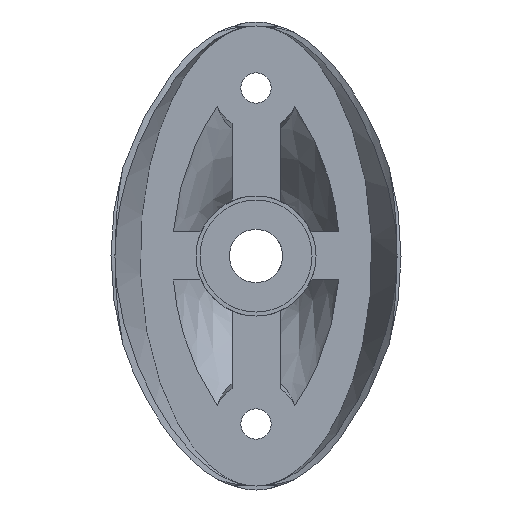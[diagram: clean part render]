
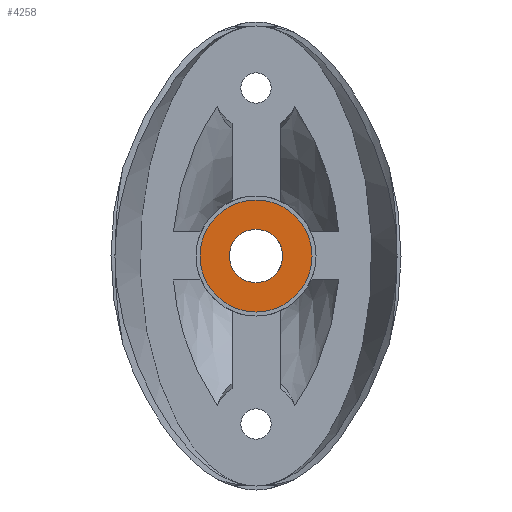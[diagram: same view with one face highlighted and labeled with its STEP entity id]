
A CAD part, front view. The second image highlights one B-rep face of the part: STEP entity #4258.
In plain terms, the highlighted planar face has unit normal (0, -1, 0).
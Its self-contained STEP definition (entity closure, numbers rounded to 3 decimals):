
#463 = DIRECTION ( 'NONE',  ( 0., 0., -1. ) ) ;
#1077 = CIRCLE ( 'NONE', #6132, 7. ) ;
#1392 = EDGE_CURVE ( 'NONE', #2000, #5674, #4791, .T. ) ;
#1672 = CIRCLE ( 'NONE', #7010, 3.33 ) ;
#1829 = CARTESIAN_POINT ( 'NONE',  ( 0., 0., 0. ) ) ;
#2000 = VERTEX_POINT ( 'NONE', #3239 ) ;
#2009 = EDGE_LOOP ( 'NONE', ( #2218, #2820 ) ) ;
#2218 = ORIENTED_EDGE ( 'NONE', *, *, #1392, .T. ) ;
#2362 = FACE_BOUND ( 'NONE', #4407, .T. ) ;
#2421 = AXIS2_PLACEMENT_3D ( 'NONE', #6651, #2915, #7282 ) ;
#2440 = DIRECTION ( 'NONE',  ( 0., -1., 0. ) ) ;
#2708 = CARTESIAN_POINT ( 'NONE',  ( 0., 0., -7. ) ) ;
#2820 = ORIENTED_EDGE ( 'NONE', *, *, #4083, .T. ) ;
#2915 = DIRECTION ( 'NONE',  ( 0., 1., 0. ) ) ;
#3113 = VERTEX_POINT ( 'NONE', #5752 ) ;
#3239 = CARTESIAN_POINT ( 'NONE',  ( 0., 0., 7. ) ) ;
#3558 = VERTEX_POINT ( 'NONE', #6975 ) ;
#3713 = DIRECTION ( 'NONE',  ( 0., 0., 1. ) ) ;
#3719 = DIRECTION ( 'NONE',  ( 0., -1., 0. ) ) ;
#3720 = AXIS2_PLACEMENT_3D ( 'NONE', #3721, #3719, #3713 ) ;
#3721 = CARTESIAN_POINT ( 'NONE',  ( 0., 0., 0. ) ) ;
#3872 = EDGE_CURVE ( 'NONE', #3558, #3113, #1672, .T. ) ;
#4024 = FACE_OUTER_BOUND ( 'NONE', #2009, .T. ) ;
#4083 = EDGE_CURVE ( 'NONE', #5674, #2000, #1077, .T. ) ;
#4216 = DIRECTION ( 'NONE',  ( 0., 1., 0. ) ) ;
#4258 = ADVANCED_FACE ( 'NONE', ( #4024, #2362 ), #6197, .T. ) ;
#4342 = DIRECTION ( 'NONE',  ( 0., 0., -1. ) ) ;
#4407 = EDGE_LOOP ( 'NONE', ( #6254, #5808 ) ) ;
#4791 = CIRCLE ( 'NONE', #3720, 7. ) ;
#5674 = VERTEX_POINT ( 'NONE', #2708 ) ;
#5752 = CARTESIAN_POINT ( 'NONE',  ( 0., 0., 3.33 ) ) ;
#5808 = ORIENTED_EDGE ( 'NONE', *, *, #6073, .T. ) ;
#6073 = EDGE_CURVE ( 'NONE', #3113, #3558, #6687, .T. ) ;
#6132 = AXIS2_PLACEMENT_3D ( 'NONE', #6173, #2440, #6814 ) ;
#6173 = CARTESIAN_POINT ( 'NONE',  ( 0., 0., 0. ) ) ;
#6197 = PLANE ( 'NONE',  #6497 ) ;
#6254 = ORIENTED_EDGE ( 'NONE', *, *, #3872, .T. ) ;
#6497 = AXIS2_PLACEMENT_3D ( 'NONE', #1829, #8093, #4342 ) ;
#6651 = CARTESIAN_POINT ( 'NONE',  ( 0., 0., 0. ) ) ;
#6687 = CIRCLE ( 'NONE', #2421, 3.33 ) ;
#6814 = DIRECTION ( 'NONE',  ( 0., 0., 1. ) ) ;
#6975 = CARTESIAN_POINT ( 'NONE',  ( 0., 0., -3.33 ) ) ;
#7010 = AXIS2_PLACEMENT_3D ( 'NONE', #7964, #4216, #463 ) ;
#7282 = DIRECTION ( 'NONE',  ( 0., 0., -1. ) ) ;
#7964 = CARTESIAN_POINT ( 'NONE',  ( 0., 0., 0. ) ) ;
#8093 = DIRECTION ( 'NONE',  ( 0., -1., 0. ) ) ;
